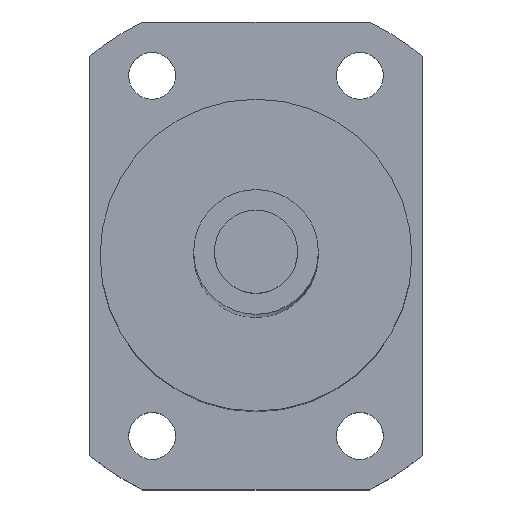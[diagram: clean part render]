
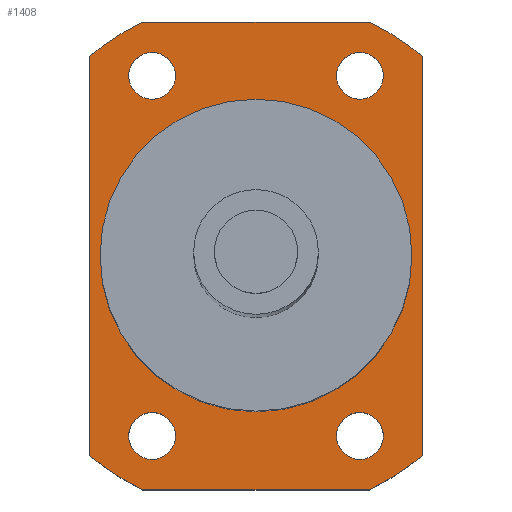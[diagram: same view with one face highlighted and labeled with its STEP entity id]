
A CAD part, top view. The second image highlights one B-rep face of the part: STEP entity #1408.
In plain terms, the highlighted planar face has unit normal (0, 0, 1).
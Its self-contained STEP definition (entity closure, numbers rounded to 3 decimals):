
#328=CARTESIAN_POINT('',(10.,17.321,250.));
#329=DIRECTION('',(0.,0.,-1.));
#330=DIRECTION('',(1.,0.,0.));
#331=AXIS2_PLACEMENT_3D('',#328,#329,#330);
#333=CARTESIAN_POINT('',(10.,17.321,250.));
#334=DIRECTION('',(0.,0.,-1.));
#335=DIRECTION('',(-1.,0.,0.));
#336=AXIS2_PLACEMENT_3D('',#333,#334,#335);
#338=CARTESIAN_POINT('',(-10.,17.321,250.));
#339=DIRECTION('',(0.,0.,-1.));
#340=DIRECTION('',(1.,0.,0.));
#341=AXIS2_PLACEMENT_3D('',#338,#339,#340);
#343=CARTESIAN_POINT('',(-10.,17.321,250.));
#344=DIRECTION('',(0.,0.,-1.));
#345=DIRECTION('',(-1.,0.,0.));
#346=AXIS2_PLACEMENT_3D('',#343,#344,#345);
#348=CARTESIAN_POINT('',(10.,-17.321,250.));
#349=DIRECTION('',(0.,0.,-1.));
#350=DIRECTION('',(1.,0.,0.));
#351=AXIS2_PLACEMENT_3D('',#348,#349,#350);
#353=CARTESIAN_POINT('',(10.,-17.321,250.));
#354=DIRECTION('',(0.,0.,-1.));
#355=DIRECTION('',(-1.,0.,0.));
#356=AXIS2_PLACEMENT_3D('',#353,#354,#355);
#358=CARTESIAN_POINT('',(-10.,-17.321,250.));
#359=DIRECTION('',(0.,0.,-1.));
#360=DIRECTION('',(1.,0.,0.));
#361=AXIS2_PLACEMENT_3D('',#358,#359,#360);
#363=CARTESIAN_POINT('',(-10.,-17.321,250.));
#364=DIRECTION('',(0.,0.,-1.));
#365=DIRECTION('',(-1.,0.,0.));
#366=AXIS2_PLACEMENT_3D('',#363,#364,#365);
#368=CARTESIAN_POINT('',(0.,0.,250.));
#369=DIRECTION('',(0.,0.,1.));
#370=DIRECTION('',(1.,0.,0.));
#371=AXIS2_PLACEMENT_3D('',#368,#369,#370);
#373=CARTESIAN_POINT('',(0.,0.,250.));
#374=DIRECTION('',(0.,0.,1.));
#375=DIRECTION('',(-1.,0.,0.));
#376=AXIS2_PLACEMENT_3D('',#373,#374,#375);
#378=DIRECTION('',(1.,0.,0.));
#379=VECTOR('',#378,21.794);
#380=CARTESIAN_POINT('',(-10.897,22.5,250.));
#381=LINE('',#380,#379);
#382=CARTESIAN_POINT('',(0.,0.,250.));
#383=DIRECTION('',(0.,0.,1.));
#384=DIRECTION('',(0.64,0.768,0.));
#385=AXIS2_PLACEMENT_3D('',#382,#383,#384);
#387=DIRECTION('',(0.,1.,0.));
#388=VECTOR('',#387,38.419);
#389=CARTESIAN_POINT('',(16.,-19.209,250.));
#390=LINE('',#389,#388);
#391=CARTESIAN_POINT('',(0.,0.,250.));
#392=DIRECTION('',(0.,0.,1.));
#393=DIRECTION('',(0.436,-0.9,0.));
#394=AXIS2_PLACEMENT_3D('',#391,#392,#393);
#396=DIRECTION('',(1.,0.,0.));
#397=VECTOR('',#396,21.794);
#398=CARTESIAN_POINT('',(-10.897,-22.5,250.));
#399=LINE('',#398,#397);
#400=CARTESIAN_POINT('',(0.,0.,250.));
#401=DIRECTION('',(0.,0.,1.));
#402=DIRECTION('',(-0.64,-0.768,0.));
#403=AXIS2_PLACEMENT_3D('',#400,#401,#402);
#405=DIRECTION('',(0.,-1.,0.));
#406=VECTOR('',#405,38.419);
#407=CARTESIAN_POINT('',(-16.,19.209,250.));
#408=LINE('',#407,#406);
#409=CARTESIAN_POINT('',(0.,0.,250.));
#410=DIRECTION('',(0.,0.,1.));
#411=DIRECTION('',(-0.436,0.9,0.));
#412=AXIS2_PLACEMENT_3D('',#409,#410,#411);
#721=CARTESIAN_POINT('',(12.25,17.321,250.));
#722=CARTESIAN_POINT('',(7.75,17.321,250.));
#723=VERTEX_POINT('',#721);
#724=VERTEX_POINT('',#722);
#725=CARTESIAN_POINT('',(-7.75,17.321,250.));
#726=CARTESIAN_POINT('',(-12.25,17.321,250.));
#727=VERTEX_POINT('',#725);
#728=VERTEX_POINT('',#726);
#729=CARTESIAN_POINT('',(12.25,-17.321,250.));
#730=CARTESIAN_POINT('',(7.75,-17.321,250.));
#731=VERTEX_POINT('',#729);
#732=VERTEX_POINT('',#730);
#733=CARTESIAN_POINT('',(-7.75,-17.321,250.));
#734=CARTESIAN_POINT('',(-12.25,-17.321,250.));
#735=VERTEX_POINT('',#733);
#736=VERTEX_POINT('',#734);
#737=CARTESIAN_POINT('',(-16.,19.209,250.));
#738=CARTESIAN_POINT('',(-16.,-19.209,250.));
#739=VERTEX_POINT('',#737);
#740=VERTEX_POINT('',#738);
#741=CARTESIAN_POINT('',(16.,-19.209,250.));
#742=CARTESIAN_POINT('',(16.,19.209,250.));
#743=VERTEX_POINT('',#741);
#744=VERTEX_POINT('',#742);
#753=CARTESIAN_POINT('',(15.,0.,250.));
#754=CARTESIAN_POINT('',(-15.,0.,250.));
#755=VERTEX_POINT('',#753);
#756=VERTEX_POINT('',#754);
#829=CARTESIAN_POINT('',(-10.897,22.5,250.));
#830=CARTESIAN_POINT('',(10.897,22.5,250.));
#831=VERTEX_POINT('',#829);
#832=VERTEX_POINT('',#830);
#833=CARTESIAN_POINT('',(-10.897,-22.5,250.));
#834=CARTESIAN_POINT('',(10.897,-22.5,250.));
#835=VERTEX_POINT('',#833);
#836=VERTEX_POINT('',#834);
#1357=CARTESIAN_POINT('',(0.,0.,250.));
#1358=DIRECTION('',(0.,0.,1.));
#1359=DIRECTION('',(1.,0.,0.));
#1360=AXIS2_PLACEMENT_3D('',#1357,#1358,#1359);
#1361=PLANE('',#1360);
#1363=ORIENTED_EDGE('',*,*,#1362,.T.);
#1365=ORIENTED_EDGE('',*,*,#1364,.F.);
#1367=ORIENTED_EDGE('',*,*,#1366,.F.);
#1369=ORIENTED_EDGE('',*,*,#1368,.F.);
#1371=ORIENTED_EDGE('',*,*,#1370,.F.);
#1373=ORIENTED_EDGE('',*,*,#1372,.F.);
#1375=ORIENTED_EDGE('',*,*,#1374,.F.);
#1377=ORIENTED_EDGE('',*,*,#1376,.F.);
#1378=EDGE_LOOP('',(#1363,#1365,#1367,#1369,#1371,#1373,#1375,#1377));
#1379=FACE_OUTER_BOUND('',#1378,.F.);
#1380=ORIENTED_EDGE('',*,*,#1337,.F.);
#1381=ORIENTED_EDGE('',*,*,#1351,.F.);
#1382=EDGE_LOOP('',(#1380,#1381));
#1383=FACE_BOUND('',#1382,.F.);
#1385=ORIENTED_EDGE('',*,*,#1384,.F.);
#1387=ORIENTED_EDGE('',*,*,#1386,.F.);
#1388=EDGE_LOOP('',(#1385,#1387));
#1389=FACE_BOUND('',#1388,.F.);
#1391=ORIENTED_EDGE('',*,*,#1390,.F.);
#1393=ORIENTED_EDGE('',*,*,#1392,.F.);
#1394=EDGE_LOOP('',(#1391,#1393));
#1395=FACE_BOUND('',#1394,.F.);
#1397=ORIENTED_EDGE('',*,*,#1396,.F.);
#1399=ORIENTED_EDGE('',*,*,#1398,.F.);
#1400=EDGE_LOOP('',(#1397,#1399));
#1401=FACE_BOUND('',#1400,.F.);
#1403=ORIENTED_EDGE('',*,*,#1402,.T.);
#1405=ORIENTED_EDGE('',*,*,#1404,.T.);
#1406=EDGE_LOOP('',(#1403,#1405));
#1407=FACE_BOUND('',#1406,.F.);
#1408=ADVANCED_FACE('',(#1379,#1383,#1389,#1395,#1401,#1407),#1361,.T.);
#332=CIRCLE('',#331,2.25);
#337=CIRCLE('',#336,2.25);
#342=CIRCLE('',#341,2.25);
#347=CIRCLE('',#346,2.25);
#352=CIRCLE('',#351,2.25);
#357=CIRCLE('',#356,2.25);
#362=CIRCLE('',#361,2.25);
#367=CIRCLE('',#366,2.25);
#372=CIRCLE('',#371,15.);
#377=CIRCLE('',#376,15.);
#386=CIRCLE('',#385,25.);
#395=CIRCLE('',#394,25.);
#404=CIRCLE('',#403,25.);
#413=CIRCLE('',#412,25.);
#1337=EDGE_CURVE('',#723,#724,#332,.T.);
#1351=EDGE_CURVE('',#724,#723,#337,.T.);
#1362=EDGE_CURVE('',#831,#832,#381,.T.);
#1364=EDGE_CURVE('',#744,#832,#386,.T.);
#1366=EDGE_CURVE('',#743,#744,#390,.T.);
#1368=EDGE_CURVE('',#836,#743,#395,.T.);
#1370=EDGE_CURVE('',#835,#836,#399,.T.);
#1372=EDGE_CURVE('',#740,#835,#404,.T.);
#1374=EDGE_CURVE('',#739,#740,#408,.T.);
#1376=EDGE_CURVE('',#831,#739,#413,.T.);
#1384=EDGE_CURVE('',#727,#728,#342,.T.);
#1386=EDGE_CURVE('',#728,#727,#347,.T.);
#1390=EDGE_CURVE('',#731,#732,#352,.T.);
#1392=EDGE_CURVE('',#732,#731,#357,.T.);
#1396=EDGE_CURVE('',#735,#736,#362,.T.);
#1398=EDGE_CURVE('',#736,#735,#367,.T.);
#1402=EDGE_CURVE('',#755,#756,#372,.T.);
#1404=EDGE_CURVE('',#756,#755,#377,.T.);
